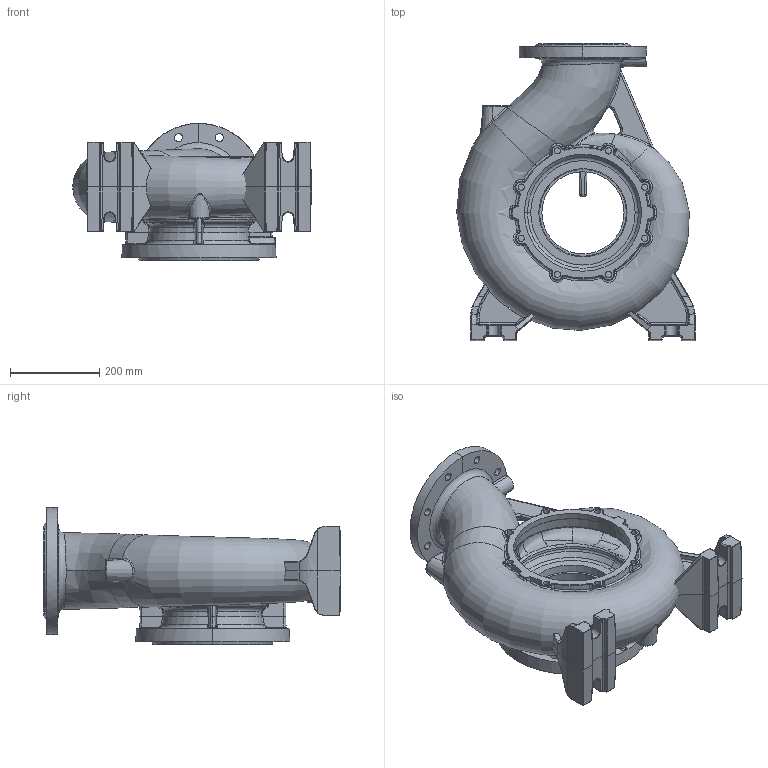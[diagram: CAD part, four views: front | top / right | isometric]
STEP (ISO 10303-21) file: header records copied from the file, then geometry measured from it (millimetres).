
FILE_DESCRIPTION (( 'STEP AP203' ), '1' );
FILE_NAME ('NM 150-250.STEP', '2016-11-11T07:47:26', ( '' ), ( '' ), 'SwSTEP 2.0', 'SolidWorks 2015', '' );
FILE_SCHEMA (( 'CONFIG_CONTROL_DESIGN' ));
Length unit declared in the file: millimetre
Products named in the file (1): NM 150-250
Bounding box: 535.16 x 667 x 307.5 mm (x, y, z)
Volume: 12623843.1 mm3; surface area: 1705349.8 mm2
Topology: 3 solids, 3 shells, 1060 faces, 2645 edges, 1581 vertices
Faces by surface type: bspline 368, cylinder 235, plane 168, cone 149, torus 114, sphere 26
Entity records: 149734 total; most frequent: CARTESIAN_POINT 127740, ORIENTED_EDGE 5286, DIRECTION 3784, EDGE_CURVE 2643, AXIS2_PLACEMENT_3D 1590, VERTEX_POINT 1581, EDGE_LOOP 1102, ADVANCED_FACE 1060
